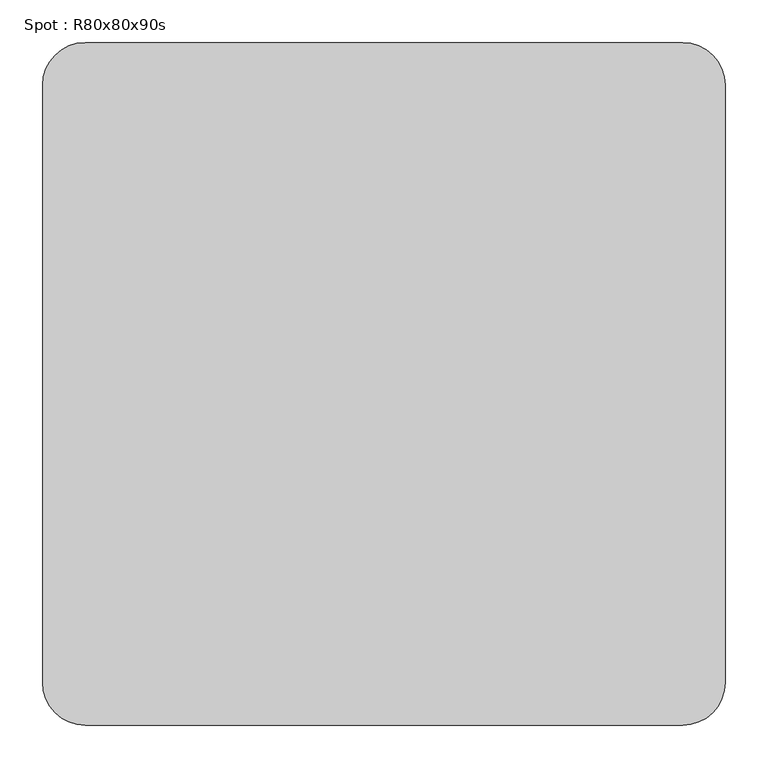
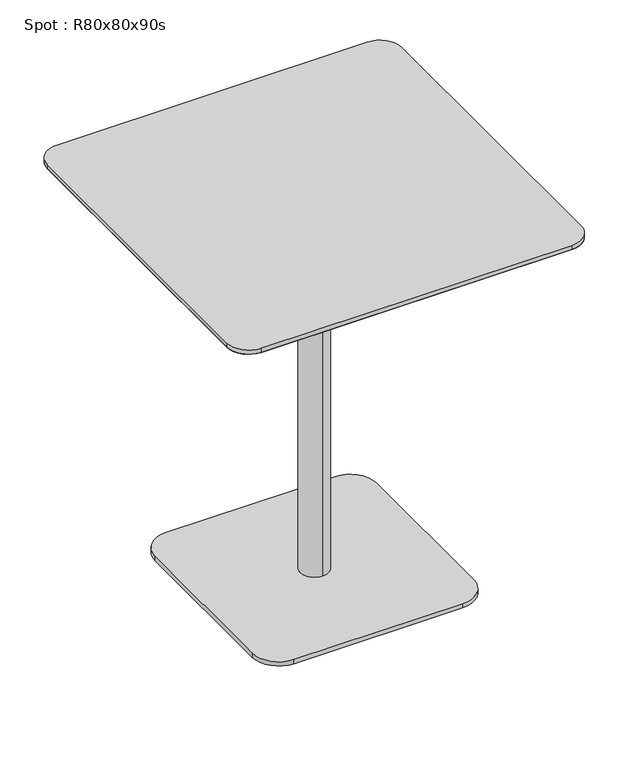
"""IFC4 building model written with IfcOpenShell, lengths in millimetres: furniture geometry, Spot : R80x80x90s."""

from ifc_helpers import new_model, si_unit, point, frame, frame_2d, origin, origin_with_axes, place, context, project, spatial, polyline, circle_curve, trimmed, segment, composite_curve, outline, extrude, source, transform, mapped, element, save
from ifc_brep_helpers import plane_surface, cylinder_surface, revolved_surface, advanced_brep


def spot_r80x80x90s_71675172(model_context):
    return source(origin(), model_context, "Body", "SolidModel", [
        advanced_brep(
        [(-350.0, -350.0, 878.0), (-350.0, 350.0, 878.0), (350.0, 350.0, 878.0), (350.0, -350.0, 878.0), (-400.0, -350.0, 890.0), (-350.0, -400.0, 890.0), (350.0, -400.0, 890.0), (400.0, -350.0, 890.0), (400.0, 350.0, 890.0), (350.0, 400.0, 890.0), (-350.0, 400.0, 890.0), (-400.0, 350.0, 890.0)],
        [
            (0, 1),
            (1, 2),
            (2, 3),
            (3, 0),
            (4, 5, circle_curve(frame((-350.0, -350.0, 890.0), z_axis=(0.0, 0.0, 1.0), x_axis=(0.0, -1.0, 0.0)), 50.0)),
            (5, 6),
            (6, 7, circle_curve(frame((350.0, -350.0, 890.0), z_axis=(0.0, 0.0, 1.0), x_axis=(1.0, 0.0, 0.0)), 50.0)),
            (7, 8),
            (8, 9, circle_curve(frame((350.0, 350.0, 890.0), z_axis=(0.0, 0.0, 1.0), x_axis=(0.0, 1.0, 0.0)), 50.0)),
            (9, 10),
            (10, 11, circle_curve(frame((-350.0, 350.0, 890.0), z_axis=(0.0, 0.0, 1.0), x_axis=(-1.0, 0.0, 0.0)), 50.0)),
            (11, 4),
            (4, 0),
            (0, 5),
            (3, 6),
            (3, 7),
            (2, 8),
            (2, 9),
            (1, 10),
            (1, 11),
        ],
        [
            plane_surface(frame((0.0, 0.0, 878.0), z_axis=(0.0, 0.0, -1.0), x_axis=(-1.0, 0.0, 0.0))),
            plane_surface(frame((0.0, 0.0, 890.0), z_axis=(0.0, 0.0, 1.0), x_axis=(-1.0, 0.0, 0.0))),
            revolved_surface(polyline([(-350.0, -350.0, 878.0), (-350.0, -400.0, 890.0)]), (-350.0, -350.0, 878.0), (0.0, 0.0, 1.0)),
            plane_surface(frame((0.0, -400.0, 890.0), z_axis=(0.0, -0.23337295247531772, -0.972387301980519), x_axis=(-1.0, 0.0, 0.0))),
            revolved_surface(polyline([(350.0, -350.0, 878.0), (400.0, -350.0, 890.0)]), (350.0, -350.0, 878.0), (0.0, 0.0, 1.0)),
            plane_surface(frame((400.0, 0.0, 890.0), z_axis=(0.23337295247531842, 0.0, -0.9723873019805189), x_axis=(0.0, -1.0, 0.0))),
            revolved_surface(polyline([(350.0, 350.0, 878.0), (350.0, 400.0, 890.0)]), (350.0, 350.0, 878.0), (0.0, 0.0, 1.0)),
            plane_surface(frame((0.0, 400.0, 890.0), z_axis=(0.0, 0.23337295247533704, -0.9723873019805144), x_axis=(1.0, 0.0, 0.0))),
            revolved_surface(polyline([(-350.0, 350.0, 878.0), (-400.0, 350.0, 890.0)]), (-350.0, 350.0, 878.0), (0.0, 0.0, 1.0)),
            plane_surface(frame((-400.0, 0.0, 890.0), z_axis=(-0.2333729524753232, 0.0, -0.9723873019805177), x_axis=(0.0, 1.0, 0.0))),
        ],
        [
            (0, [[1, 2, 3, 4]]),
            (1, [[5, 6, 7, 8, 9, 10, 11, 12]]),
            (2, [[-5, 13, 14]]),
            (3, [[-6, -14, -4, 15]]),
            (4, [[-7, -15, 16]]),
            (5, [[-8, -16, -3, 17]]),
            (6, [[-9, -17, 18]]),
            (7, [[-10, -18, -2, 19]]),
            (8, [[-11, -19, 20]]),
            (9, [[-12, -20, -1, -13]]),
        ],
    ),
        extrude(outline(composite_curve([segment(trimmed(circle_curve(frame_2d((350.0, 350.0)), 50.0), [point((350.0, 400.0))], [point((400.0, 350.0))], False, "CARTESIAN"), True, "CONTINUOUS"), segment(polyline([(400.0, 350.0), (400.0, -350.0)]), True, "CONTINUOUS"), segment(trimmed(circle_curve(frame_2d((350.0, -350.0)), 50.0), [point((400.0, -350.0))], [point((350.0, -400.0))], False, "CARTESIAN"), True, "CONTINUOUS"), segment(polyline([(350.0, -400.0), (-350.0, -400.0)]), True, "CONTINUOUS"), segment(trimmed(circle_curve(frame_2d((-350.0, -350.0)), 50.0), [point((-350.0, -400.0))], [point((-400.0, -350.0))], False, "CARTESIAN"), True, "CONTINUOUS"), segment(polyline([(-400.0, -350.0), (-400.0, 350.0)]), True, "CONTINUOUS"), segment(trimmed(circle_curve(frame_2d((-350.0, 350.0)), 50.0), [point((-400.0, 350.0))], [point((-350.0, 400.0))], False, "CARTESIAN"), True, "CONTINUOUS"), segment(polyline([(-350.0, 400.0), (350.0, 400.0)]), True, "CONTINUOUS")], self_intersect=False)), frame((0.0, 0.0, 890.0), z_axis=(0.0, 0.0, 1.0), x_axis=(1.0, 0.0, 0.0)), (0.0, 0.0, 1.0), 10.0),
        extrude(outline(composite_curve([segment(trimmed(circle_curve(frame_2d((190.0, 190.0)), 60.0), [point((190.0, 250.0))], [point((250.0, 190.0))], False, "CARTESIAN"), True, "CONTINUOUS"), segment(polyline([(250.0, 190.0), (250.0, -190.0)]), True, "CONTINUOUS"), segment(trimmed(circle_curve(frame_2d((190.0, -190.0)), 60.0), [point((250.0, -190.0))], [point((190.0, -250.0))], False, "CARTESIAN"), True, "CONTINUOUS"), segment(polyline([(190.0, -250.0), (-190.0, -250.0)]), True, "CONTINUOUS"), segment(trimmed(circle_curve(frame_2d((-190.0, -190.0)), 60.0), [point((-190.0, -250.0))], [point((-250.0, -190.0))], False, "CARTESIAN"), True, "CONTINUOUS"), segment(polyline([(-250.0, -190.0), (-250.0, 190.0)]), True, "CONTINUOUS"), segment(trimmed(circle_curve(frame_2d((-190.0, 190.0)), 60.0), [point((-250.0, 190.0))], [point((-190.0, 250.0))], False, "CARTESIAN"), True, "CONTINUOUS"), segment(polyline([(-190.0, 250.0), (190.0, 250.0)]), True, "CONTINUOUS")], self_intersect=False)), origin_with_axes(), (0.0, 0.0, 1.0), 10.0),
        advanced_brep(
        [(0.0, 32.0, 10.0), (0.0, -32.0, 10.0), (0.0, -32.0, 847.406916), (0.0, 32.0, 847.406916), (0.0, 0.0, 10.0), (0.0, 150.0, 878.0), (0.0, -150.0, 878.0), (0.0, 0.0, 878.0), (0.0, 150.0, 866.7213673), (0.0, -150.0, 866.7213673)],
        [
            (0, 1, circle_curve(frame((0.0, 0.0, 10.0), z_axis=(0.0, 0.0, 1.0), x_axis=(0.0, -1.0, 0.0)), 32.0)),
            (1, 2),
            (2, 3, circle_curve(frame((0.0, 0.0, 847.406916), z_axis=(0.0, 0.0, -1.0), x_axis=(0.0, -1.0, 0.0)), 32.0)),
            (3, 0),
            (1, 0, circle_curve(frame((0.0, 0.0, 10.0), z_axis=(0.0, 0.0, 1.0), x_axis=(0.0, -1.0, 0.0)), 32.0)),
            (3, 2, circle_curve(frame((0.0, 0.0, 847.406916), z_axis=(0.0, 0.0, -1.0), x_axis=(0.0, -1.0, 0.0)), 32.0)),
            (4, 1),
            (0, 4),
            (5, 6, circle_curve(frame((0.0, 0.0, 878.0), z_axis=(0.0, 0.0, 1.0), x_axis=(0.0, -1.0, 0.0)), 150.0)),
            (6, 7),
            (7, 5),
            (6, 5, circle_curve(frame((0.0, 0.0, 878.0), z_axis=(0.0, 0.0, 1.0), x_axis=(0.0, -1.0, 0.0)), 150.0)),
            (8, 9, circle_curve(frame((0.0, 0.0, 866.7213673), z_axis=(0.0, 0.0, 1.0), x_axis=(0.0, -1.0, 0.0)), 150.0)),
            (9, 6),
            (5, 8),
            (9, 8, circle_curve(frame((0.0, 0.0, 866.7213673), z_axis=(0.0, 0.0, 1.0), x_axis=(0.0, -1.0, 0.0)), 150.0)),
            (2, 9),
            (8, 3),
        ],
        [
            cylinder_surface(frame((0.0, 0.0, 1240.0), z_axis=(0.0, 0.0, -1.0), x_axis=(0.0, -1.0, 0.0)), 32.0),
            plane_surface(frame((0.0, 0.0, 10.0), z_axis=(0.0, 0.0, -1.0), x_axis=(0.0, -1.0, 0.0))),
            plane_surface(frame((0.0, 0.0, 878.0), z_axis=(0.0, 0.0, 1.0), x_axis=(0.0, -1.0, 0.0))),
            cylinder_surface(frame((0.0, 0.0, 1240.0), z_axis=(0.0, 0.0, -1.0), x_axis=(0.0, -1.0, 0.0)), 150.0),
            revolved_surface(polyline([(0.0, -150.0, 866.7213673), (0.0, -32.0, 847.406916)]), (0.0, 0.0, 1240.0), (0.0, 0.0, -1.0)),
        ],
        [
            (0, [[1, 2, 3, 4]]),
            (0, [[5, -4, 6, -2]]),
            (1, [[7, -1, 8]]),
            (1, [[-8, -5, -7]]),
            (2, [[9, 10, 11]]),
            (2, [[12, -11, -10]]),
            (3, [[13, 14, -9, 15]]),
            (3, [[16, -15, -12, -14]]),
            (4, [[-3, 17, -13, 18]]),
            (4, [[-6, -18, -16, -17]]),
        ],
    ),
        extrude(outline(polyline([(0.0, 0.0), (-20.0, 0.0), (-20.0, 20.0), (0.0, 20.0), (0.0, 0.0)])), origin_with_axes(), (0.0, 0.0, 1.0), 10.0),
    ])


if __name__ == "__main__":
    model = new_model("IFC4")
    model_context = context("Model", 3, world=origin())
    ifc_project = project(units=[si_unit("LENGTHUNIT", "METRE", prefix="MILLI")], contexts=[model_context])
    site = spatial("IfcSite", under=ifc_project)
    building = spatial("IfcBuilding", under=site)
    placement = place(None, origin())
    spot_r80x80x90s_shape = spot_r80x80x90s_71675172(model_context)
    element("IfcFurniture", 1, ObjectType="Spot : R80x80x90s", at=placement, inside=building, context=model_context, shape_type="MappedRepresentation", body=[
        mapped(spot_r80x80x90s_shape, transform((0.0, 0.0, 0.0), x_axis=(1.0, 0.0, 0.0), y_axis=(0.0, 1.0, 0.0), z_axis=(0.0, 0.0, 1.0))),
    ])
    save(model, "model.ifc")
